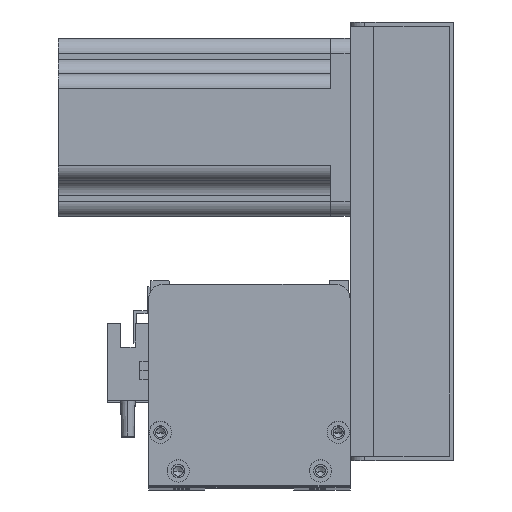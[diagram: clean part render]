
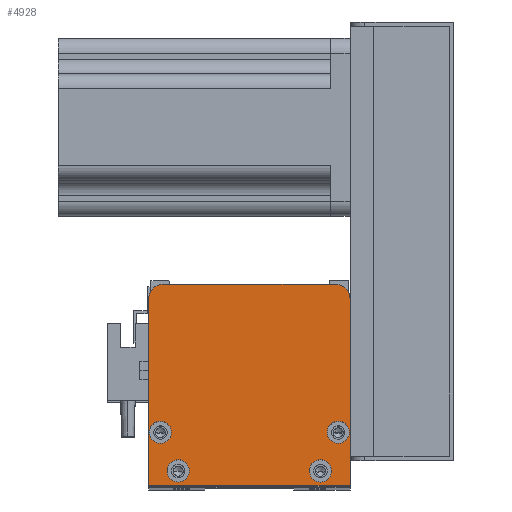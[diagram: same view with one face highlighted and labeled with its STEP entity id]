
A CAD part, top view. The second image highlights one B-rep face of the part: STEP entity #4928.
In plain terms, the highlighted planar face has unit normal (0, 0, 1).
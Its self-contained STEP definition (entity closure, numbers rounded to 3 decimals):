
#341 = DIRECTION ( 'NONE',  ( 0., 0., 1. ) ) ;
#421 = CARTESIAN_POINT ( 'NONE',  ( 68., 0., 64. ) ) ;
#676 = FACE_BOUND ( 'NONE', #16706, .T. ) ;
#1057 = DIRECTION ( 'NONE',  ( 1., 0., 0. ) ) ;
#1144 = CARTESIAN_POINT ( 'NONE',  ( 5., 63., 64. ) ) ;
#1165 = CARTESIAN_POINT ( 'NONE',  ( 4., 18., 64. ) ) ;
#1575 = LINE ( 'NONE', #6675, #10828 ) ;
#1626 = DIRECTION ( 'NONE',  ( 1., 0., 0. ) ) ;
#1705 = CARTESIAN_POINT ( 'NONE',  ( 60.25, 18., 64. ) ) ;
#1731 = DIRECTION ( 'NONE',  ( 0., 0., 1. ) ) ;
#1877 = CIRCLE ( 'NONE', #16855, 5. ) ;
#2363 = DIRECTION ( 'NONE',  ( 1., 0., 0. ) ) ;
#2466 = EDGE_CURVE ( 'NONE', #20984, #22542, #12887, .T. ) ;
#2769 = CARTESIAN_POINT ( 'NONE',  ( 5., 68., 64. ) ) ;
#3089 = DIRECTION ( 'NONE',  ( 0., 0., 1. ) ) ;
#3128 = CARTESIAN_POINT ( 'NONE',  ( 61.75, 5., 64. ) ) ;
#3295 = CARTESIAN_POINT ( 'NONE',  ( 0., 63., 64. ) ) ;
#3583 = EDGE_CURVE ( 'NONE', #9927, #23258, #12155, .T. ) ;
#3830 = EDGE_LOOP ( 'NONE', ( #6947, #27124 ) ) ;
#3833 = CARTESIAN_POINT ( 'NONE',  ( 0., 0., 64. ) ) ;
#3914 = DIRECTION ( 'NONE',  ( 1., 0., 0. ) ) ;
#4065 = ORIENTED_EDGE ( 'NONE', *, *, #19946, .F. ) ;
#4328 = DIRECTION ( 'NONE',  ( 0., 0., 1. ) ) ;
#4494 = PLANE ( 'NONE',  #16297 ) ;
#4590 = DIRECTION ( 'NONE',  ( 1., 0., 0. ) ) ;
#4733 = ORIENTED_EDGE ( 'NONE', *, *, #5782, .T. ) ;
#4919 = CIRCLE ( 'NONE', #21767, 5. ) ;
#4928 = ADVANCED_FACE ( 'NONE', ( #22453, #676, #7270, #13533, #21435 ), #4494, .T. ) ;
#5077 = CIRCLE ( 'NONE', #14103, 3.75 ) ;
#5420 = CIRCLE ( 'NONE', #11526, 3.75 ) ;
#5471 = DIRECTION ( 'NONE',  ( 1., 0., 0. ) ) ;
#5482 = DIRECTION ( 'NONE',  ( 0., -1., 0. ) ) ;
#5542 = CARTESIAN_POINT ( 'NONE',  ( 10., 5., 64. ) ) ;
#5601 = VERTEX_POINT ( 'NONE', #9051 ) ;
#5782 = EDGE_CURVE ( 'NONE', #21138, #22093, #4919, .T. ) ;
#6204 = DIRECTION ( 'NONE',  ( 1., 0., 0. ) ) ;
#6637 = LINE ( 'NONE', #17334, #12571 ) ;
#6675 = CARTESIAN_POINT ( 'NONE',  ( 0., 0., 64. ) ) ;
#6947 = ORIENTED_EDGE ( 'NONE', *, *, #3583, .F. ) ;
#7206 = AXIS2_PLACEMENT_3D ( 'NONE', #1165, #22479, #5471 ) ;
#7270 = FACE_BOUND ( 'NONE', #8775, .T. ) ;
#7805 = EDGE_CURVE ( 'NONE', #8345, #18356, #1877, .T. ) ;
#7979 = EDGE_LOOP ( 'NONE', ( #8779, #16921 ) ) ;
#8138 = EDGE_CURVE ( 'NONE', #20982, #21138, #16030, .T. ) ;
#8345 = VERTEX_POINT ( 'NONE', #2769 ) ;
#8562 = EDGE_CURVE ( 'NONE', #21198, #5601, #9422, .T. ) ;
#8620 = CIRCLE ( 'NONE', #22383, 3.75 ) ;
#8732 = EDGE_CURVE ( 'NONE', #20343, #18081, #5420, .T. ) ;
#8775 = EDGE_LOOP ( 'NONE', ( #25170, #4065 ) ) ;
#8779 = ORIENTED_EDGE ( 'NONE', *, *, #8732, .F. ) ;
#8846 = ORIENTED_EDGE ( 'NONE', *, *, #19602, .T. ) ;
#8934 = DIRECTION ( 'NONE',  ( 0., 0., 1. ) ) ;
#8935 = EDGE_CURVE ( 'NONE', #22093, #8345, #17021, .T. ) ;
#8953 = DIRECTION ( 'NONE',  ( 1., 0., 0. ) ) ;
#9051 = CARTESIAN_POINT ( 'NONE',  ( 6.25, 5., 64. ) ) ;
#9388 = DIRECTION ( 'NONE',  ( 1., 0., 0. ) ) ;
#9404 = ORIENTED_EDGE ( 'NONE', *, *, #7805, .T. ) ;
#9422 = CIRCLE ( 'NONE', #24779, 3.75 ) ;
#9927 = VERTEX_POINT ( 'NONE', #9998 ) ;
#9998 = CARTESIAN_POINT ( 'NONE',  ( 67.75, 18., 64. ) ) ;
#10538 = ORIENTED_EDGE ( 'NONE', *, *, #2466, .F. ) ;
#10587 = DIRECTION ( 'NONE',  ( 0., 0., 1. ) ) ;
#10742 = CARTESIAN_POINT ( 'NONE',  ( 54.25, 5., 64. ) ) ;
#10828 = VECTOR ( 'NONE', #5482, 1000. ) ;
#10919 = CARTESIAN_POINT ( 'NONE',  ( 63., 68., 64. ) ) ;
#11526 = AXIS2_PLACEMENT_3D ( 'NONE', #23273, #341, #2363 ) ;
#12155 = CIRCLE ( 'NONE', #12585, 3.75 ) ;
#12234 = CARTESIAN_POINT ( 'NONE',  ( 63., 63., 64. ) ) ;
#12571 = VECTOR ( 'NONE', #8953, 1000. ) ;
#12585 = AXIS2_PLACEMENT_3D ( 'NONE', #15018, #3089, #13648 ) ;
#12887 = CIRCLE ( 'NONE', #7206, 3.75 ) ;
#13533 = FACE_BOUND ( 'NONE', #7979, .T. ) ;
#13648 = DIRECTION ( 'NONE',  ( 1., 0., 0. ) ) ;
#13678 = CARTESIAN_POINT ( 'NONE',  ( 4., 18., 64. ) ) ;
#14103 = AXIS2_PLACEMENT_3D ( 'NONE', #19593, #8934, #17410 ) ;
#14592 = ORIENTED_EDGE ( 'NONE', *, *, #8935, .T. ) ;
#14761 = EDGE_CURVE ( 'NONE', #23258, #9927, #5077, .T. ) ;
#15018 = CARTESIAN_POINT ( 'NONE',  ( 64., 18., 64. ) ) ;
#15055 = DIRECTION ( 'NONE',  ( 0., 1., 0. ) ) ;
#15662 = AXIS2_PLACEMENT_3D ( 'NONE', #5542, #18309, #1057 ) ;
#15748 = VERTEX_POINT ( 'NONE', #3833 ) ;
#16030 = LINE ( 'NONE', #421, #17066 ) ;
#16052 = CIRCLE ( 'NONE', #15662, 3.75 ) ;
#16297 = AXIS2_PLACEMENT_3D ( 'NONE', #19198, #4328, #4590 ) ;
#16596 = DIRECTION ( 'NONE',  ( 0., 0., 1. ) ) ;
#16600 = CARTESIAN_POINT ( 'NONE',  ( 68., 0., 64. ) ) ;
#16706 = EDGE_LOOP ( 'NONE', ( #10538, #27191 ) ) ;
#16855 = AXIS2_PLACEMENT_3D ( 'NONE', #1144, #19866, #9388 ) ;
#16921 = ORIENTED_EDGE ( 'NONE', *, *, #26438, .F. ) ;
#17021 = LINE ( 'NONE', #21700, #19930 ) ;
#17066 = VECTOR ( 'NONE', #15055, 1000. ) ;
#17334 = CARTESIAN_POINT ( 'NONE',  ( 68., 0., 64. ) ) ;
#17410 = DIRECTION ( 'NONE',  ( 1., 0., 0. ) ) ;
#18081 = VERTEX_POINT ( 'NONE', #10742 ) ;
#18309 = DIRECTION ( 'NONE',  ( 0., 0., 1. ) ) ;
#18356 = VERTEX_POINT ( 'NONE', #3295 ) ;
#19198 = CARTESIAN_POINT ( 'NONE',  ( 0., 0., 64. ) ) ;
#19425 = CARTESIAN_POINT ( 'NONE',  ( 68., 63., 64. ) ) ;
#19593 = CARTESIAN_POINT ( 'NONE',  ( 64., 18., 64. ) ) ;
#19602 = EDGE_CURVE ( 'NONE', #18356, #15748, #1575, .T. ) ;
#19866 = DIRECTION ( 'NONE',  ( 0., 0., 1. ) ) ;
#19871 = AXIS2_PLACEMENT_3D ( 'NONE', #25303, #10587, #6204 ) ;
#19930 = VECTOR ( 'NONE', #26228, 1000. ) ;
#19946 = EDGE_CURVE ( 'NONE', #5601, #21198, #16052, .T. ) ;
#20343 = VERTEX_POINT ( 'NONE', #3128 ) ;
#20982 = VERTEX_POINT ( 'NONE', #16600 ) ;
#20984 = VERTEX_POINT ( 'NONE', #22927 ) ;
#21012 = CARTESIAN_POINT ( 'NONE',  ( 0.25, 18., 64. ) ) ;
#21046 = EDGE_CURVE ( 'NONE', #15748, #20982, #6637, .T. ) ;
#21138 = VERTEX_POINT ( 'NONE', #19425 ) ;
#21198 = VERTEX_POINT ( 'NONE', #21988 ) ;
#21435 = FACE_OUTER_BOUND ( 'NONE', #23571, .T. ) ;
#21647 = EDGE_CURVE ( 'NONE', #22542, #20984, #8620, .T. ) ;
#21700 = CARTESIAN_POINT ( 'NONE',  ( 68., 68., 64. ) ) ;
#21767 = AXIS2_PLACEMENT_3D ( 'NONE', #12234, #16596, #1626 ) ;
#21837 = CIRCLE ( 'NONE', #19871, 3.75 ) ;
#21962 = DIRECTION ( 'NONE',  ( 1., 0., 0. ) ) ;
#21988 = CARTESIAN_POINT ( 'NONE',  ( 13.75, 5., 64. ) ) ;
#22093 = VERTEX_POINT ( 'NONE', #10919 ) ;
#22383 = AXIS2_PLACEMENT_3D ( 'NONE', #13678, #24102, #21962 ) ;
#22453 = FACE_BOUND ( 'NONE', #3830, .T. ) ;
#22479 = DIRECTION ( 'NONE',  ( 0., 0., 1. ) ) ;
#22542 = VERTEX_POINT ( 'NONE', #21012 ) ;
#22747 = CARTESIAN_POINT ( 'NONE',  ( 10., 5., 64. ) ) ;
#22927 = CARTESIAN_POINT ( 'NONE',  ( 7.75, 18., 64. ) ) ;
#23258 = VERTEX_POINT ( 'NONE', #1705 ) ;
#23273 = CARTESIAN_POINT ( 'NONE',  ( 58., 5., 64. ) ) ;
#23292 = ORIENTED_EDGE ( 'NONE', *, *, #21046, .T. ) ;
#23571 = EDGE_LOOP ( 'NONE', ( #14592, #9404, #8846, #23292, #24175, #4733 ) ) ;
#24102 = DIRECTION ( 'NONE',  ( 0., 0., 1. ) ) ;
#24175 = ORIENTED_EDGE ( 'NONE', *, *, #8138, .T. ) ;
#24779 = AXIS2_PLACEMENT_3D ( 'NONE', #22747, #1731, #3914 ) ;
#25170 = ORIENTED_EDGE ( 'NONE', *, *, #8562, .F. ) ;
#25303 = CARTESIAN_POINT ( 'NONE',  ( 58., 5., 64. ) ) ;
#26228 = DIRECTION ( 'NONE',  ( -1., 0., 0. ) ) ;
#26438 = EDGE_CURVE ( 'NONE', #18081, #20343, #21837, .T. ) ;
#27124 = ORIENTED_EDGE ( 'NONE', *, *, #14761, .F. ) ;
#27191 = ORIENTED_EDGE ( 'NONE', *, *, #21647, .F. ) ;
